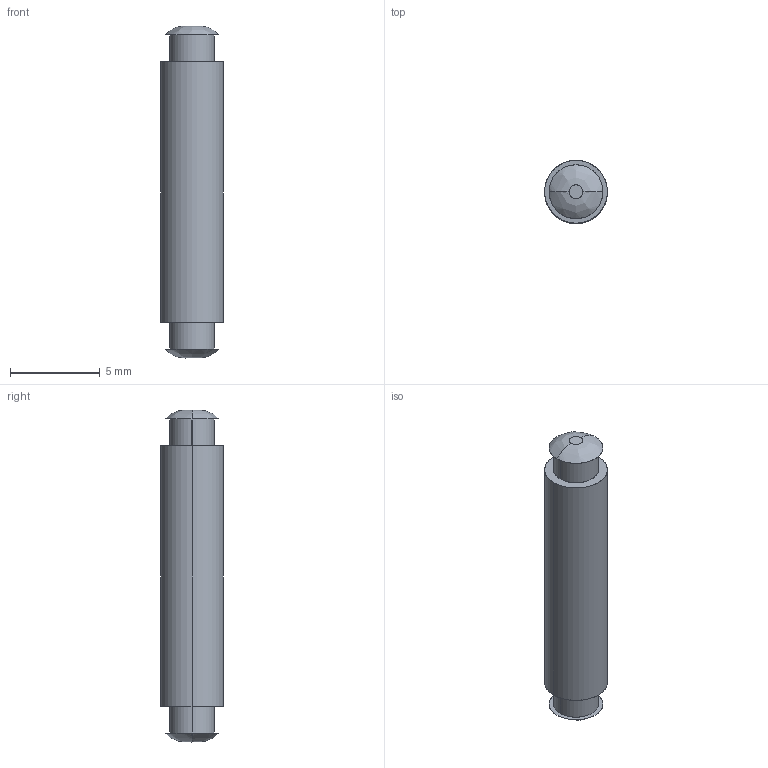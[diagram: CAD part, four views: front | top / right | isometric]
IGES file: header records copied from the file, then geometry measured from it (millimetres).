
Start section: SolidWorks IGES FILE using analytic representation for surfaces
Global section: file name: C:\Documents and Settings\brechard\Bureau\GP 10\10.110.10.IGS; native system: SolidWorks 2001Plus by SolidWorks Corporation; preprocessor: Version 5.3; author: brechard; date: 050126.143827; units: millimetre
Bounding box: 3.5 x 3.5 x 18.5 mm (x, y, z)
Surface area: 213.1 mm2 (no closed solid volume)
Topology: 0 solids, 0 shells, 16 faces, 328 edges, 328 vertices
Faces by surface type: bspline 10, revolution 6
